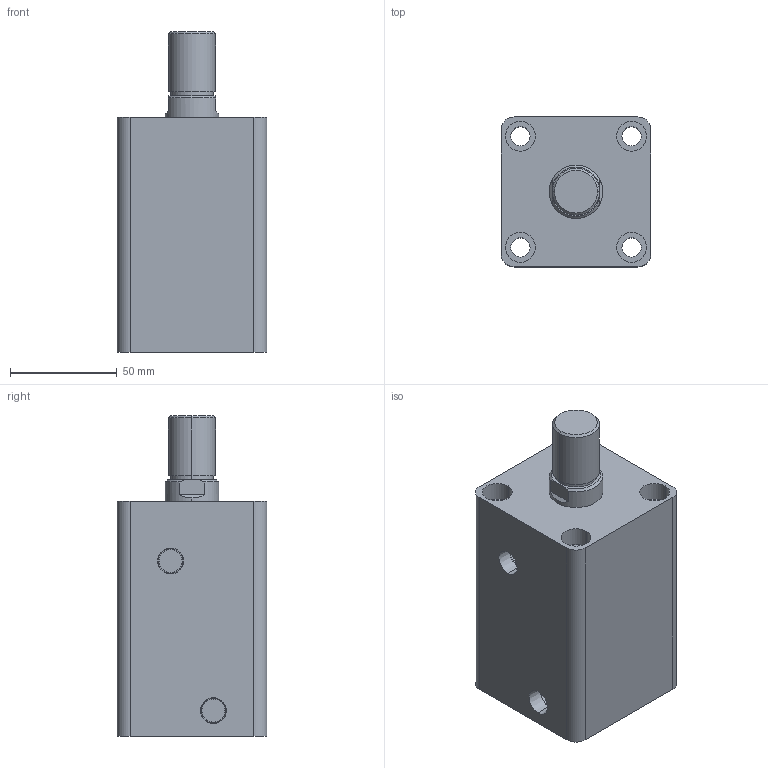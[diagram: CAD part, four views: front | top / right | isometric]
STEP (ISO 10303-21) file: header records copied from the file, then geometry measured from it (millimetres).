
FILE_DESCRIPTION (( 'STEP AP203' ), '1' );
FILE_NAME ('HTB-SD40-55W.STEP', '2019-10-07T06:53:49', ( '微软用户' ), ( '微软中国' ), 'SwSTEP 2.0', 'SolidWorks 2012', '' );
FILE_SCHEMA (( 'CONFIG_CONTROL_DESIGN' ));
Length unit declared in the file: millimetre
Products named in the file (3): HTB-SD40-55W; HTB-SD40-55掛极; HTB-SD40-55W活塞杆
Assembly tree (2 placements, depth 2):
  HTB-SD40-55W
    HTB-SD40-55掛极
    HTB-SD40-55W活塞杆
Bounding box: 70 x 70 x 150 mm (x, y, z)
Volume: 472971.4 mm3; surface area: 80012.9 mm2
Topology: 2 solids, 2 shells, 85 faces, 186 edges, 122 vertices
Faces by surface type: cylinder 44, plane 29, cone 8, torus 4
Entity records: 2709 total; most frequent: DIRECTION 466, CARTESIAN_POINT 426, ORIENTED_EDGE 372, AXIS2_PLACEMENT_3D 198, EDGE_CURVE 186, VERTEX_POINT 122, EDGE_LOOP 110, CIRCLE 108
